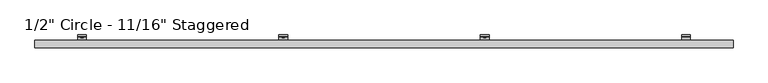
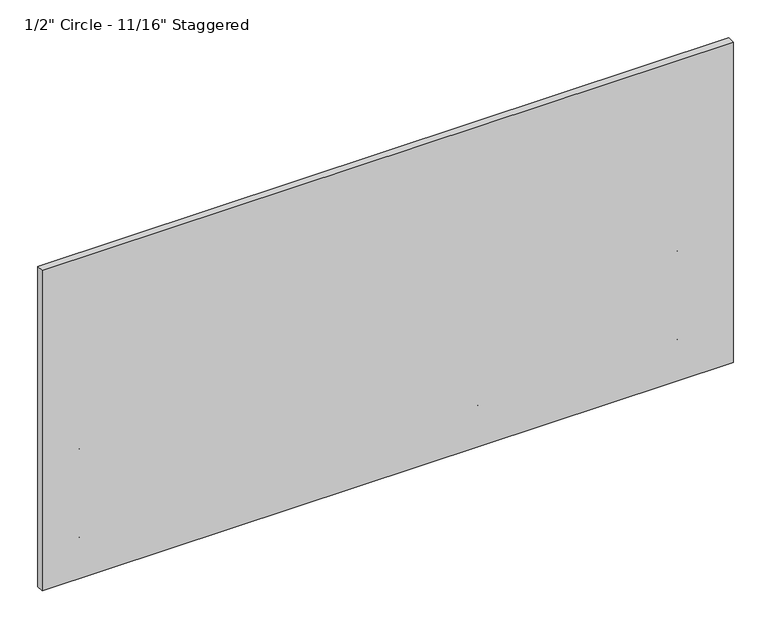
"""IFC4 building model written with IfcOpenShell, lengths in millimetres: plate geometry."""

from ifc_helpers import new_model, si_unit, point, frame, frame_2d, origin, place, context, project, spatial, polyline, circle_curve, trimmed, segment, composite_curve, outline, extrude, source, transform, mapped, element, save
from ifc_brep_helpers import plane_surface, cylinder_surface, revolved_surface, advanced_brep


def plate_956091e3(model_context):
    return source(origin(), model_context, "Body", "SolidModel", [
        advanced_brep(
        [(1285.875, -47.625, 561.2468868), (1285.875, -51.2819443, 553.5848544), (1285.875, -89.5163624, 526.8128266), (1285.875, -92.9330442, 530.2295084), (1285.875, -54.3526876, 557.2437649), (1285.875, -52.4002, 561.2469577), (1285.875, -52.4002, 595.439572), (1285.875, -47.625, 595.439572), (1323.975, -47.625, 561.2468868), (1323.975, -47.625, 595.439572), (1323.975, -52.4002, 595.439572), (1323.975, -52.4002, 561.2469577), (1323.975, -54.3526876, 557.2437649), (1323.975, -92.9330442, 530.2295084), (1323.975, -89.5163624, 526.8128266), (1323.975, -51.2819443, 553.5848544), (1311.6661889, -52.4002, 581.3943558), (1311.6661889, -52.4002, 575.0443558), (1295.4383287, -52.4002, 575.0443558), (1295.4383287, -52.4002, 581.3943558), (1311.6661889, -47.625, 575.0443558), (1311.6661889, -47.625, 581.3943558), (1295.4383287, -47.625, 581.3943558), (1295.4383287, -47.625, 575.0443558)],
        [
            (0, 1, circle_curve(frame((1285.875, -57.4802202, 561.2468868), z_axis=(-1.0, 0.0, 0.0), x_axis=(0.0, -1.0, 0.0)), 9.8552202)),
            (1, 2),
            (2, 3),
            (3, 4),
            (4, 5, circle_curve(frame((1285.875, -57.4803246, 561.2469577), z_axis=(1.0, 0.0, 0.0), x_axis=(0.0, -1.0, 0.0)), 5.0801246)),
            (5, 6),
            (6, 7),
            (7, 0),
            (8, 9),
            (9, 10),
            (10, 11),
            (11, 12, circle_curve(frame((1323.975, -57.4803246, 561.2469577), z_axis=(-1.0, 0.0, 0.0), x_axis=(0.0, -1.0, 0.0)), 5.0801246)),
            (12, 13),
            (13, 14),
            (14, 15),
            (15, 8, circle_curve(frame((1323.975, -57.4802202, 561.2468868), z_axis=(1.0, 0.0, 0.0), x_axis=(0.0, -1.0, 0.0)), 9.8552202)),
            (4, 12),
            (11, 5),
            (10, 6),
            (16, 17, circle_curve(frame((1311.6661889, -52.4002, 578.2193558), z_axis=(0.0, 1.0, 0.0), x_axis=(0.0, 0.0, -1.0)), 3.175)),
            (17, 18),
            (18, 19, circle_curve(frame((1295.4383287, -52.4002, 578.2193558), z_axis=(0.0, 1.0, 0.0), x_axis=(0.0, 0.0, -1.0)), 3.175)),
            (19, 16),
            (9, 7),
            (8, 0),
            (20, 21, circle_curve(frame((1311.6661889, -47.625, 578.2193558), z_axis=(0.0, -1.0, 0.0), x_axis=(0.0, 0.0, -1.0)), 3.175)),
            (21, 22),
            (22, 23, circle_curve(frame((1295.4383287, -47.625, 578.2193558), z_axis=(0.0, -1.0, 0.0), x_axis=(0.0, 0.0, -1.0)), 3.175)),
            (23, 20),
            (15, 1),
            (20, 17),
            (16, 21),
            (19, 22),
            (18, 23),
            (14, 2),
            (13, 3),
        ],
        [
            plane_surface(frame((1285.875, -67.3354404, 561.2468868), z_axis=(-1.0, 0.0, 0.0), x_axis=(0.0, 0.0, 1.0))),
            plane_surface(frame((1323.975, -67.3354404, 561.2468868), z_axis=(1.0, 0.0, 0.0), x_axis=(0.0, 0.0, -1.0))),
            revolved_surface(polyline([(1323.975, -62.5604492, 561.2469577), (1285.875, -62.5604492, 561.2469577)]), (1323.975, -57.4803246, 561.2469577), (1.0, 0.0, 0.0)),
            plane_surface(frame((1285.875, -52.4002, 561.2469577), z_axis=(0.0, -1.0, 0.0), x_axis=(1.0, 0.0, 0.0))),
            plane_surface(frame((1285.875, -52.4002, 595.439572), z_axis=(0.0, 0.0, 1.0), x_axis=(1.0, 0.0, 0.0))),
            plane_surface(frame((1285.875, -47.625, 595.439572), z_axis=(0.0, 1.0, 6.99569853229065e-12), x_axis=(1.0, 0.0, 0.0))),
            cylinder_surface(frame((1323.975, -57.4802202, 561.2468868), z_axis=(-1.0, 0.0, 0.0), x_axis=(0.0, -1.0, 0.0)), 9.8552202),
            revolved_surface(polyline([(1311.6661889, -52.4002, 575.0443558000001), (1311.6661889, -47.625, 575.0443558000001)]), (1311.6661889, -25.6669948, 578.2193558), (0.0, -1.0, 0.0)),
            plane_surface(frame((1311.6661889, -86.677982, 581.3943558), z_axis=(0.0, 0.0, -1.0), x_axis=(0.0, 1.0, 0.0))),
            revolved_surface(polyline([(1295.4383287, -52.4002, 575.0443558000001), (1295.4383287, -47.625, 575.0443558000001)]), (1295.4383287, -25.6669948, 578.2193558), (0.0, -1.0, 0.0)),
            plane_surface(frame((1295.4383287, -86.677982, 575.0443558), z_axis=(-2.7237733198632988e-11, 0.0, 1.0), x_axis=(0.0, 1.0, 0.0))),
            plane_surface(frame((1285.875, -51.2819443, 553.5848544), z_axis=(0.0, 0.5735764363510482, -0.8191520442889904), x_axis=(1.0, 0.0, 0.0))),
            plane_surface(frame((1285.875, -89.5163624, 526.8128266), z_axis=(0.0, -0.7071067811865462, -0.7071067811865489), x_axis=(1.0, 0.0, 0.0))),
            plane_surface(frame((1285.875, -92.9330442, 530.2295084), z_axis=(0.0, -0.5735764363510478, 0.8191520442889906), x_axis=(1.0, 0.0, 0.0))),
        ],
        [
            (0, [[1, 2, 3, 4, 5, 6, 7, 8]]),
            (1, [[9, 10, 11, 12, 13, 14, 15, 16]]),
            (2, [[-5, 17, -12, 18]]),
            (3, [[-6, -18, -11, 19], [20, 21, 22, 23]]),
            (4, [[-7, -19, -10, 24]]),
            (5, [[-8, -24, -9, 25], [26, 27, 28, 29]]),
            (6, [[-1, -25, -16, 30]]),
            (7, [[31, -20, 32, -26]]),
            (8, [[-32, -23, 33, -27]]),
            (9, [[-33, -22, 34, -28]]),
            (10, [[-31, -29, -34, -21]]),
            (11, [[-2, -30, -15, 35]]),
            (12, [[-3, -35, -14, 36]]),
            (13, [[-4, -36, -13, -17]]),
        ],
    ),
        extrude(outline(polyline([(578.3961989, 429.9570034), (574.0504864, 432.4660017), (574.0504864, 437.4839983), (578.3961989, 439.9929966), (582.7419114, 437.4839983), (582.7419114, 432.4660017), (578.3961989, 429.9570034)])), frame((0.0, -58.7607779, 0.0), z_axis=(0.0, 1.0, 0.0), x_axis=(0.0, 0.0, 1.0)), (0.0, 0.0, 1.0), 11.1357779),
        extrude(outline(composite_curve([segment(trimmed(circle_curve(frame_2d((578.4895059, 434.975)), 6.35), [point((578.4895059, 441.325))], [point((578.4895059, 428.625))], False, "CARTESIAN"), True, "CONTINUOUS"), segment(trimmed(circle_curve(frame_2d((578.4895059, 434.975)), 6.35), [point((578.4895059, 428.625))], [point((578.4895059, 441.325))], False, "CARTESIAN"), True, "CONTINUOUS")], self_intersect=False)), frame((0.0, -57.0817743, 0.0), z_axis=(0.0, 1.0, 0.0), x_axis=(0.0, 0.0, 1.0)), (0.0, 0.0, 1.0), 9.4567743),
        advanced_brep(
        [(415.925, -47.625, 561.2468868), (415.925, -51.2819443, 553.5848544), (415.925, -89.5163624, 526.8128266), (415.925, -92.9330442, 530.2295084), (415.925, -54.3526876, 557.2437649), (415.925, -52.4002, 561.2469577), (415.925, -52.4002, 595.439572), (415.925, -47.625, 595.439572), (454.025, -47.625, 561.2468868), (454.025, -47.625, 595.439572), (454.025, -52.4002, 595.439572), (454.025, -52.4002, 561.2469577), (454.025, -54.3526876, 557.2437649), (454.025, -92.9330442, 530.2295084), (454.025, -89.5163624, 526.8128266), (454.025, -51.2819443, 553.5848544), (441.7161889, -52.4002, 581.3943558), (441.7161889, -52.4002, 575.0443558), (425.4883287, -52.4002, 575.0443558), (425.4883287, -52.4002, 581.3943558), (441.7161889, -47.625, 575.0443558), (441.7161889, -47.625, 581.3943558), (425.4883287, -47.625, 581.3943558), (425.4883287, -47.625, 575.0443558)],
        [
            (0, 1, circle_curve(frame((415.925, -57.4802202, 561.2468868), z_axis=(-1.0, 0.0, 0.0), x_axis=(0.0, -1.0, 0.0)), 9.8552202)),
            (1, 2),
            (2, 3),
            (3, 4),
            (4, 5, circle_curve(frame((415.925, -57.4803246, 561.2469577), z_axis=(1.0, 0.0, 0.0), x_axis=(0.0, -1.0, 0.0)), 5.0801246)),
            (5, 6),
            (6, 7),
            (7, 0),
            (8, 9),
            (9, 10),
            (10, 11),
            (11, 12, circle_curve(frame((454.025, -57.4803246, 561.2469577), z_axis=(-1.0, 0.0, 0.0), x_axis=(0.0, -1.0, 0.0)), 5.0801246)),
            (12, 13),
            (13, 14),
            (14, 15),
            (15, 8, circle_curve(frame((454.025, -57.4802202, 561.2468868), z_axis=(1.0, 0.0, 0.0), x_axis=(0.0, -1.0, 0.0)), 9.8552202)),
            (4, 12),
            (11, 5),
            (10, 6),
            (16, 17, circle_curve(frame((441.7161889, -52.4002, 578.2193558), z_axis=(0.0, 1.0, 0.0), x_axis=(0.0, 0.0, -1.0)), 3.175)),
            (17, 18),
            (18, 19, circle_curve(frame((425.4883287, -52.4002, 578.2193558), z_axis=(0.0, 1.0, 0.0), x_axis=(0.0, 0.0, -1.0)), 3.175)),
            (19, 16),
            (9, 7),
            (8, 0),
            (20, 21, circle_curve(frame((441.7161889, -47.625, 578.2193558), z_axis=(0.0, -1.0, 0.0), x_axis=(0.0, 0.0, -1.0)), 3.175)),
            (21, 22),
            (22, 23, circle_curve(frame((425.4883287, -47.625, 578.2193558), z_axis=(0.0, -1.0, 0.0), x_axis=(0.0, 0.0, -1.0)), 3.175)),
            (23, 20),
            (15, 1),
            (20, 17),
            (16, 21),
            (19, 22),
            (18, 23),
            (14, 2),
            (13, 3),
        ],
        [
            plane_surface(frame((415.925, -67.3354404, 561.2468868), z_axis=(-1.0, 0.0, 0.0), x_axis=(0.0, 0.0, 1.0))),
            plane_surface(frame((454.025, -67.3354404, 561.2468868), z_axis=(1.0, 0.0, 0.0), x_axis=(0.0, 0.0, -1.0))),
            revolved_surface(polyline([(454.025, -62.5604492, 561.2469577), (415.925, -62.5604492, 561.2469577)]), (454.025, -57.4803246, 561.2469577), (1.0, 0.0, 0.0)),
            plane_surface(frame((415.925, -52.4002, 561.2469577), z_axis=(0.0, -1.0, 0.0), x_axis=(1.0, 0.0, 0.0))),
            plane_surface(frame((415.925, -52.4002, 595.439572), z_axis=(0.0, 0.0, 1.0), x_axis=(1.0, 0.0, 0.0))),
            plane_surface(frame((415.925, -47.625, 595.439572), z_axis=(0.0, 1.0, 6.99569853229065e-12), x_axis=(1.0, 0.0, 0.0))),
            cylinder_surface(frame((454.025, -57.4802202, 561.2468868), z_axis=(-1.0, 0.0, 0.0), x_axis=(0.0, -1.0, 0.0)), 9.8552202),
            revolved_surface(polyline([(441.7161889, -52.4002, 575.0443558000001), (441.7161889, -47.625, 575.0443558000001)]), (441.7161889, -25.6669948, 578.2193558), (0.0, -1.0, 0.0)),
            plane_surface(frame((441.7161889, -86.677982, 581.3943558), z_axis=(0.0, 0.0, -1.0), x_axis=(0.0, 1.0, 0.0))),
            revolved_surface(polyline([(425.4883287, -52.4002, 575.0443558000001), (425.4883287, -47.625, 575.0443558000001)]), (425.4883287, -25.6669948, 578.2193558), (0.0, -1.0, 0.0)),
            plane_surface(frame((425.4883287, -86.677982, 575.0443558), z_axis=(-2.7237733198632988e-11, 0.0, 1.0), x_axis=(0.0, 1.0, 0.0))),
            plane_surface(frame((415.925, -51.2819443, 553.5848544), z_axis=(0.0, 0.5735764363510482, -0.8191520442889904), x_axis=(1.0, 0.0, 0.0))),
            plane_surface(frame((415.925, -89.5163624, 526.8128266), z_axis=(0.0, -0.7071067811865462, -0.7071067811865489), x_axis=(1.0, 0.0, 0.0))),
            plane_surface(frame((415.925, -92.9330442, 530.2295084), z_axis=(0.0, -0.5735764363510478, 0.8191520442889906), x_axis=(1.0, 0.0, 0.0))),
        ],
        [
            (0, [[1, 2, 3, 4, 5, 6, 7, 8]]),
            (1, [[9, 10, 11, 12, 13, 14, 15, 16]]),
            (2, [[-5, 17, -12, 18]]),
            (3, [[-6, -18, -11, 19], [20, 21, 22, 23]]),
            (4, [[-7, -19, -10, 24]]),
            (5, [[-8, -24, -9, 25], [26, 27, 28, 29]]),
            (6, [[-1, -25, -16, 30]]),
            (7, [[31, -20, 32, -26]]),
            (8, [[-32, -23, 33, -27]]),
            (9, [[-33, -22, 34, -28]]),
            (10, [[-31, -29, -34, -21]]),
            (11, [[-2, -30, -15, 35]]),
            (12, [[-3, -35, -14, 36]]),
            (13, [[-4, -36, -13, -17]]),
        ],
    ),
        extrude(outline(polyline([(578.3961989, -439.9929966), (574.0504864, -437.4839983), (574.0504864, -432.4660017), (578.3961989, -429.9570034), (582.7419114, -432.4660017), (582.7419114, -437.4839983), (578.3961989, -439.9929966)])), frame((0.0, -58.7607779, 0.0), z_axis=(0.0, 1.0, 0.0), x_axis=(0.0, 0.0, 1.0)), (0.0, 0.0, 1.0), 11.1357779),
        extrude(outline(composite_curve([segment(trimmed(circle_curve(frame_2d((578.4895059, -434.975)), 6.35), [point((578.4895059, -428.625))], [point((578.4895059, -441.325))], False, "CARTESIAN"), True, "CONTINUOUS"), segment(trimmed(circle_curve(frame_2d((578.4895059, -434.975)), 6.35), [point((578.4895059, -441.325))], [point((578.4895059, -428.625))], False, "CARTESIAN"), True, "CONTINUOUS")], self_intersect=False)), frame((0.0, -57.0817743, 0.0), z_axis=(0.0, 1.0, 0.0), x_axis=(0.0, 0.0, 1.0)), (0.0, 0.0, 1.0), 9.4567743),
        advanced_brep(
        [(-454.025, -47.625, 561.2468868), (-454.025, -51.2819443, 553.5848544), (-454.025, -89.5163624, 526.8128266), (-454.025, -92.9330442, 530.2295084), (-454.025, -54.3526876, 557.2437649), (-454.025, -52.4002, 561.2469577), (-454.025, -52.4002, 595.439572), (-454.025, -47.625, 595.439572), (-415.925, -47.625, 561.2468868), (-415.925, -47.625, 595.439572), (-415.925, -52.4002, 595.439572), (-415.925, -52.4002, 561.2469577), (-415.925, -54.3526876, 557.2437649), (-415.925, -92.9330442, 530.2295084), (-415.925, -89.5163624, 526.8128266), (-415.925, -51.2819443, 553.5848544), (-428.2338111, -52.4002, 581.3943558), (-428.2338111, -52.4002, 575.0443558), (-444.4616713, -52.4002, 575.0443558), (-444.4616713, -52.4002, 581.3943558), (-428.2338111, -47.625, 575.0443558), (-428.2338111, -47.625, 581.3943558), (-444.4616713, -47.625, 581.3943558), (-444.4616713, -47.625, 575.0443558)],
        [
            (0, 1, circle_curve(frame((-454.025, -57.4802202, 561.2468868), z_axis=(-1.0, 0.0, 0.0), x_axis=(0.0, -1.0, 0.0)), 9.8552202)),
            (1, 2),
            (2, 3),
            (3, 4),
            (4, 5, circle_curve(frame((-454.025, -57.4803246, 561.2469577), z_axis=(1.0, 0.0, 0.0), x_axis=(0.0, -1.0, 0.0)), 5.0801246)),
            (5, 6),
            (6, 7),
            (7, 0),
            (8, 9),
            (9, 10),
            (10, 11),
            (11, 12, circle_curve(frame((-415.925, -57.4803246, 561.2469577), z_axis=(-1.0, 0.0, 0.0), x_axis=(0.0, -1.0, 0.0)), 5.0801246)),
            (12, 13),
            (13, 14),
            (14, 15),
            (15, 8, circle_curve(frame((-415.925, -57.4802202, 561.2468868), z_axis=(1.0, 0.0, 0.0), x_axis=(0.0, -1.0, 0.0)), 9.8552202)),
            (4, 12),
            (11, 5),
            (10, 6),
            (16, 17, circle_curve(frame((-428.2338111, -52.4002, 578.2193558), z_axis=(0.0, 1.0, 0.0), x_axis=(0.0, 0.0, -1.0)), 3.175)),
            (17, 18),
            (18, 19, circle_curve(frame((-444.4616713, -52.4002, 578.2193558), z_axis=(0.0, 1.0, 0.0), x_axis=(0.0, 0.0, -1.0)), 3.175)),
            (19, 16),
            (9, 7),
            (8, 0),
            (20, 21, circle_curve(frame((-428.2338111, -47.625, 578.2193558), z_axis=(0.0, -1.0, 0.0), x_axis=(0.0, 0.0, -1.0)), 3.175)),
            (21, 22),
            (22, 23, circle_curve(frame((-444.4616713, -47.625, 578.2193558), z_axis=(0.0, -1.0, 0.0), x_axis=(0.0, 0.0, -1.0)), 3.175)),
            (23, 20),
            (15, 1),
            (20, 17),
            (16, 21),
            (19, 22),
            (18, 23),
            (14, 2),
            (13, 3),
        ],
        [
            plane_surface(frame((-454.025, -67.3354404, 561.2468868), z_axis=(-1.0, 0.0, 0.0), x_axis=(0.0, 0.0, 1.0))),
            plane_surface(frame((-415.925, -67.3354404, 561.2468868), z_axis=(1.0, 0.0, 0.0), x_axis=(0.0, 0.0, -1.0))),
            revolved_surface(polyline([(-415.925, -62.5604492, 561.2469577), (-454.025, -62.5604492, 561.2469577)]), (-415.925, -57.4803246, 561.2469577), (1.0, 0.0, 0.0)),
            plane_surface(frame((-454.025, -52.4002, 561.2469577), z_axis=(0.0, -1.0, 0.0), x_axis=(1.0, 0.0, 0.0))),
            plane_surface(frame((-454.025, -52.4002, 595.439572), z_axis=(0.0, 0.0, 1.0), x_axis=(1.0, 0.0, 0.0))),
            plane_surface(frame((-454.025, -47.625, 595.439572), z_axis=(0.0, 1.0, 6.99569853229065e-12), x_axis=(1.0, 0.0, 0.0))),
            cylinder_surface(frame((-415.925, -57.4802202, 561.2468868), z_axis=(-1.0, 0.0, 0.0), x_axis=(0.0, -1.0, 0.0)), 9.8552202),
            revolved_surface(polyline([(-428.2338111, -52.4002, 575.0443558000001), (-428.2338111, -47.625, 575.0443558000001)]), (-428.2338111, -25.6669948, 578.2193558), (0.0, -1.0, 0.0)),
            plane_surface(frame((-428.2338111, -86.677982, 581.3943558), z_axis=(0.0, 0.0, -1.0), x_axis=(0.0, 1.0, 0.0))),
            revolved_surface(polyline([(-444.4616713, -52.4002, 575.0443558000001), (-444.4616713, -47.625, 575.0443558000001)]), (-444.4616713, -25.6669948, 578.2193558), (0.0, -1.0, 0.0)),
            plane_surface(frame((-444.4616713, -86.677982, 575.0443558), z_axis=(-2.7237733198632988e-11, 0.0, 1.0), x_axis=(0.0, 1.0, 0.0))),
            plane_surface(frame((-454.025, -51.2819443, 553.5848544), z_axis=(0.0, 0.5735764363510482, -0.8191520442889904), x_axis=(1.0, 0.0, 0.0))),
            plane_surface(frame((-454.025, -89.5163624, 526.8128266), z_axis=(0.0, -0.7071067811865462, -0.7071067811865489), x_axis=(1.0, 0.0, 0.0))),
            plane_surface(frame((-454.025, -92.9330442, 530.2295084), z_axis=(0.0, -0.5735764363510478, 0.8191520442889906), x_axis=(1.0, 0.0, 0.0))),
        ],
        [
            (0, [[1, 2, 3, 4, 5, 6, 7, 8]]),
            (1, [[9, 10, 11, 12, 13, 14, 15, 16]]),
            (2, [[-5, 17, -12, 18]]),
            (3, [[-6, -18, -11, 19], [20, 21, 22, 23]]),
            (4, [[-7, -19, -10, 24]]),
            (5, [[-8, -24, -9, 25], [26, 27, 28, 29]]),
            (6, [[-1, -25, -16, 30]]),
            (7, [[31, -20, 32, -26]]),
            (8, [[-32, -23, 33, -27]]),
            (9, [[-33, -22, 34, -28]]),
            (10, [[-31, -29, -34, -21]]),
            (11, [[-2, -30, -15, 35]]),
            (12, [[-3, -35, -14, 36]]),
            (13, [[-4, -36, -13, -17]]),
        ],
    ),
        extrude(outline(polyline([(578.3961989, -1309.9429966), (574.0504864, -1307.4339983), (574.0504864, -1302.4160017), (578.3961989, -1299.9070034), (582.7419114, -1302.4160017), (582.7419114, -1307.4339983), (578.3961989, -1309.9429966)])), frame((0.0, -58.7607779, 0.0), z_axis=(0.0, 1.0, 0.0), x_axis=(0.0, 0.0, 1.0)), (0.0, 0.0, 1.0), 11.1357779),
        extrude(outline(composite_curve([segment(trimmed(circle_curve(frame_2d((578.4895059, -1304.925)), 6.35), [point((578.4895059, -1298.575))], [point((578.4895059, -1311.275))], False, "CARTESIAN"), True, "CONTINUOUS"), segment(trimmed(circle_curve(frame_2d((578.4895059, -1304.925)), 6.35), [point((578.4895059, -1311.275))], [point((578.4895059, -1298.575))], False, "CARTESIAN"), True, "CONTINUOUS")], self_intersect=False)), frame((0.0, -57.0817743, 0.0), z_axis=(0.0, 1.0, 0.0), x_axis=(0.0, 0.0, 1.0)), (0.0, 0.0, 1.0), 9.4567743),
        advanced_brep(
        [(-1323.975, -47.625, 561.2468868), (-1323.975, -51.2819443, 553.5848544), (-1323.975, -89.5163624, 526.8128266), (-1323.975, -92.9330442, 530.2295084), (-1323.975, -54.3526876, 557.2437649), (-1323.975, -52.4002, 561.2469577), (-1323.975, -52.4002, 595.439572), (-1323.975, -47.625, 595.439572), (-1285.875, -47.625, 561.2468868), (-1285.875, -47.625, 595.439572), (-1285.875, -52.4002, 595.439572), (-1285.875, -52.4002, 561.2469577), (-1285.875, -54.3526876, 557.2437649), (-1285.875, -92.9330442, 530.2295084), (-1285.875, -89.5163624, 526.8128266), (-1285.875, -51.2819443, 553.5848544), (-1298.1838111, -52.4002, 581.3943558), (-1298.1838111, -52.4002, 575.0443558), (-1314.4116713, -52.4002, 575.0443558), (-1314.4116713, -52.4002, 581.3943558), (-1298.1838111, -47.625, 575.0443558), (-1298.1838111, -47.625, 581.3943558), (-1314.4116713, -47.625, 581.3943558), (-1314.4116713, -47.625, 575.0443558)],
        [
            (0, 1, circle_curve(frame((-1323.975, -57.4802202, 561.2468868), z_axis=(-1.0, 0.0, 0.0), x_axis=(0.0, -1.0, 0.0)), 9.8552202)),
            (1, 2),
            (2, 3),
            (3, 4),
            (4, 5, circle_curve(frame((-1323.975, -57.4803246, 561.2469577), z_axis=(1.0, 0.0, 0.0), x_axis=(0.0, -1.0, 0.0)), 5.0801246)),
            (5, 6),
            (6, 7),
            (7, 0),
            (8, 9),
            (9, 10),
            (10, 11),
            (11, 12, circle_curve(frame((-1285.875, -57.4803246, 561.2469577), z_axis=(-1.0, 0.0, 0.0), x_axis=(0.0, -1.0, 0.0)), 5.0801246)),
            (12, 13),
            (13, 14),
            (14, 15),
            (15, 8, circle_curve(frame((-1285.875, -57.4802202, 561.2468868), z_axis=(1.0, 0.0, 0.0), x_axis=(0.0, -1.0, 0.0)), 9.8552202)),
            (4, 12),
            (11, 5),
            (10, 6),
            (16, 17, circle_curve(frame((-1298.1838111, -52.4002, 578.2193558), z_axis=(0.0, 1.0, 0.0), x_axis=(0.0, 0.0, -1.0)), 3.175)),
            (17, 18),
            (18, 19, circle_curve(frame((-1314.4116713, -52.4002, 578.2193558), z_axis=(0.0, 1.0, 0.0), x_axis=(0.0, 0.0, -1.0)), 3.175)),
            (19, 16),
            (9, 7),
            (8, 0),
            (20, 21, circle_curve(frame((-1298.1838111, -47.625, 578.2193558), z_axis=(0.0, -1.0, 0.0), x_axis=(0.0, 0.0, -1.0)), 3.175)),
            (21, 22),
            (22, 23, circle_curve(frame((-1314.4116713, -47.625, 578.2193558), z_axis=(0.0, -1.0, 0.0), x_axis=(0.0, 0.0, -1.0)), 3.175)),
            (23, 20),
            (15, 1),
            (20, 17),
            (16, 21),
            (19, 22),
            (18, 23),
            (14, 2),
            (13, 3),
        ],
        [
            plane_surface(frame((-1323.975, -67.3354404, 561.2468868), z_axis=(-1.0, 0.0, 0.0), x_axis=(0.0, 0.0, 1.0))),
            plane_surface(frame((-1285.875, -67.3354404, 561.2468868), z_axis=(1.0, 0.0, 0.0), x_axis=(0.0, 0.0, -1.0))),
            revolved_surface(polyline([(-1285.875, -62.5604492, 561.2469577), (-1323.975, -62.5604492, 561.2469577)]), (-1285.875, -57.4803246, 561.2469577), (1.0, 0.0, 0.0)),
            plane_surface(frame((-1323.975, -52.4002, 561.2469577), z_axis=(0.0, -1.0, 0.0), x_axis=(1.0, 0.0, 0.0))),
            plane_surface(frame((-1323.975, -52.4002, 595.439572), z_axis=(0.0, 0.0, 1.0), x_axis=(1.0, 0.0, 0.0))),
            plane_surface(frame((-1323.975, -47.625, 595.439572), z_axis=(0.0, 1.0, 6.99569853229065e-12), x_axis=(1.0, 0.0, 0.0))),
            cylinder_surface(frame((-1285.875, -57.4802202, 561.2468868), z_axis=(-1.0, 0.0, 0.0), x_axis=(0.0, -1.0, 0.0)), 9.8552202),
            revolved_surface(polyline([(-1298.1838111, -52.4002, 575.0443558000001), (-1298.1838111, -47.625, 575.0443558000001)]), (-1298.1838111, -25.6669948, 578.2193558), (0.0, -1.0, 0.0)),
            plane_surface(frame((-1298.1838111, -86.677982, 581.3943558), z_axis=(0.0, 0.0, -1.0), x_axis=(0.0, 1.0, 0.0))),
            revolved_surface(polyline([(-1314.4116713, -52.4002, 575.0443558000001), (-1314.4116713, -47.625, 575.0443558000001)]), (-1314.4116713, -25.6669948, 578.2193558), (0.0, -1.0, 0.0)),
            plane_surface(frame((-1314.4116713, -86.677982, 575.0443558), z_axis=(-2.7237733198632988e-11, 0.0, 1.0), x_axis=(0.0, 1.0, 0.0))),
            plane_surface(frame((-1323.975, -51.2819443, 553.5848544), z_axis=(0.0, 0.5735764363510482, -0.8191520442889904), x_axis=(1.0, 0.0, 0.0))),
            plane_surface(frame((-1323.975, -89.5163624, 526.8128266), z_axis=(0.0, -0.7071067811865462, -0.7071067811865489), x_axis=(1.0, 0.0, 0.0))),
            plane_surface(frame((-1323.975, -92.9330442, 530.2295084), z_axis=(0.0, -0.5735764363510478, 0.8191520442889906), x_axis=(1.0, 0.0, 0.0))),
        ],
        [
            (0, [[1, 2, 3, 4, 5, 6, 7, 8]]),
            (1, [[9, 10, 11, 12, 13, 14, 15, 16]]),
            (2, [[-5, 17, -12, 18]]),
            (3, [[-6, -18, -11, 19], [20, 21, 22, 23]]),
            (4, [[-7, -19, -10, 24]]),
            (5, [[-8, -24, -9, 25], [26, 27, 28, 29]]),
            (6, [[-1, -25, -16, 30]]),
            (7, [[31, -20, 32, -26]]),
            (8, [[-32, -23, 33, -27]]),
            (9, [[-33, -22, 34, -28]]),
            (10, [[-31, -29, -34, -21]]),
            (11, [[-2, -30, -15, 35]]),
            (12, [[-3, -35, -14, 36]]),
            (13, [[-4, -36, -13, -17]]),
        ],
    ),
        extrude(outline(polyline([(169.8795323, 1299.9070034), (165.5338197, 1302.4160017), (165.5338197, 1307.4339983), (169.8795323, 1309.9429966), (174.2252448, 1307.4339983), (174.2252448, 1302.4160017), (169.8795323, 1299.9070034)])), frame((0.0, -58.7607779, 0.0), z_axis=(0.0, 1.0, 0.0), x_axis=(0.0, 0.0, 1.0)), (0.0, 0.0, 1.0), 11.1357779),
        extrude(outline(composite_curve([segment(trimmed(circle_curve(frame_2d((169.9728392, 1304.925)), 6.35), [point((169.9728392, 1311.275))], [point((169.9728392, 1298.575))], False, "CARTESIAN"), True, "CONTINUOUS"), segment(trimmed(circle_curve(frame_2d((169.9728392, 1304.925)), 6.35), [point((169.9728392, 1298.575))], [point((169.9728392, 1311.275))], False, "CARTESIAN"), True, "CONTINUOUS")], self_intersect=False)), frame((0.0, -57.0817743, 0.0), z_axis=(0.0, 1.0, 0.0), x_axis=(0.0, 0.0, 1.0)), (0.0, 0.0, 1.0), 9.4567743),
        advanced_brep(
        [(1285.875, -47.625, 152.7302202), (1285.875, -51.2819443, 145.0681877), (1285.875, -89.5163624, 118.29616), (1285.875, -92.9330442, 121.7128418), (1285.875, -54.3526876, 148.7270983), (1285.875, -52.4002, 152.7302911), (1285.875, -52.4002, 186.9229053), (1285.875, -47.625, 186.9229053), (1323.975, -47.625, 152.7302202), (1323.975, -47.625, 186.9229053), (1323.975, -52.4002, 186.9229053), (1323.975, -52.4002, 152.7302911), (1323.975, -54.3526876, 148.7270983), (1323.975, -92.9330442, 121.7128418), (1323.975, -89.5163624, 118.29616), (1323.975, -51.2819443, 145.0681877), (1311.6661889, -52.4002, 172.8776891), (1311.6661889, -52.4002, 166.5276891), (1295.4383287, -52.4002, 166.5276891), (1295.4383287, -52.4002, 172.8776891), (1311.6661889, -47.625, 166.5276891), (1311.6661889, -47.625, 172.8776891), (1295.4383287, -47.625, 172.8776891), (1295.4383287, -47.625, 166.5276891)],
        [
            (0, 1, circle_curve(frame((1285.875, -57.4802202, 152.7302202), z_axis=(-1.0, 0.0, 0.0), x_axis=(0.0, -1.0, 0.0)), 9.8552202)),
            (1, 2),
            (2, 3),
            (3, 4),
            (4, 5, circle_curve(frame((1285.875, -57.4803246, 152.7302911), z_axis=(1.0, 0.0, 0.0), x_axis=(0.0, -1.0, 0.0)), 5.0801246)),
            (5, 6),
            (6, 7),
            (7, 0),
            (8, 9),
            (9, 10),
            (10, 11),
            (11, 12, circle_curve(frame((1323.975, -57.4803246, 152.7302911), z_axis=(-1.0, 0.0, 0.0), x_axis=(0.0, -1.0, 0.0)), 5.0801246)),
            (12, 13),
            (13, 14),
            (14, 15),
            (15, 8, circle_curve(frame((1323.975, -57.4802202, 152.7302202), z_axis=(1.0, 0.0, 0.0), x_axis=(0.0, -1.0, 0.0)), 9.8552202)),
            (4, 12),
            (11, 5),
            (10, 6),
            (16, 17, circle_curve(frame((1311.6661889, -52.4002, 169.7026891), z_axis=(0.0, 1.0, 0.0), x_axis=(0.0, 0.0, -1.0)), 3.175)),
            (17, 18),
            (18, 19, circle_curve(frame((1295.4383287, -52.4002, 169.7026891), z_axis=(0.0, 1.0, 0.0), x_axis=(0.0, 0.0, -1.0)), 3.175)),
            (19, 16),
            (9, 7),
            (8, 0),
            (20, 21, circle_curve(frame((1311.6661889, -47.625, 169.7026891), z_axis=(0.0, -1.0, 0.0), x_axis=(0.0, 0.0, -1.0)), 3.175)),
            (21, 22),
            (22, 23, circle_curve(frame((1295.4383287, -47.625, 169.7026891), z_axis=(0.0, -1.0, 0.0), x_axis=(0.0, 0.0, -1.0)), 3.175)),
            (23, 20),
            (15, 1),
            (20, 17),
            (16, 21),
            (19, 22),
            (18, 23),
            (14, 2),
            (13, 3),
        ],
        [
            plane_surface(frame((1285.875, -67.3354404, 152.7302202), z_axis=(-1.0, 0.0, 0.0), x_axis=(0.0, 0.0, 1.0))),
            plane_surface(frame((1323.975, -67.3354404, 152.7302202), z_axis=(1.0, 0.0, 0.0), x_axis=(0.0, 0.0, -1.0))),
            revolved_surface(polyline([(1323.975, -62.5604492, 152.7302911), (1285.875, -62.5604492, 152.7302911)]), (1323.975, -57.4803246, 152.7302911), (1.0, 0.0, 0.0)),
            plane_surface(frame((1285.875, -52.4002, 152.7302911), z_axis=(0.0, -1.0, 0.0), x_axis=(1.0, 0.0, 0.0))),
            plane_surface(frame((1285.875, -52.4002, 186.9229053), z_axis=(0.0, 0.0, 1.0), x_axis=(1.0, 0.0, 0.0))),
            plane_surface(frame((1285.875, -47.625, 186.9229053), z_axis=(0.0, 1.0, 6.99569853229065e-12), x_axis=(1.0, 0.0, 0.0))),
            cylinder_surface(frame((1323.975, -57.4802202, 152.7302202), z_axis=(-1.0, 0.0, 0.0), x_axis=(0.0, -1.0, 0.0)), 9.8552202),
            revolved_surface(polyline([(1311.6661889, -52.4002, 166.52768909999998), (1311.6661889, -47.625, 166.52768909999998)]), (1311.6661889, -25.6669948, 169.7026891), (0.0, -1.0, 0.0)),
            plane_surface(frame((1311.6661889, -86.677982, 172.8776891), z_axis=(0.0, 0.0, -1.0), x_axis=(0.0, 1.0, 0.0))),
            revolved_surface(polyline([(1295.4383287, -52.4002, 166.52768909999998), (1295.4383287, -47.625, 166.52768909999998)]), (1295.4383287, -25.6669948, 169.7026891), (0.0, -1.0, 0.0)),
            plane_surface(frame((1295.4383287, -86.677982, 166.5276891), z_axis=(-2.723774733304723e-11, 0.0, 1.0), x_axis=(0.0, 1.0, 0.0))),
            plane_surface(frame((1285.875, -51.2819443, 145.0681877), z_axis=(0.0, 0.5735764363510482, -0.8191520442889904), x_axis=(1.0, 0.0, 0.0))),
            plane_surface(frame((1285.875, -89.5163624, 118.29616), z_axis=(0.0, -0.7071067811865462, -0.7071067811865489), x_axis=(1.0, 0.0, 0.0))),
            plane_surface(frame((1285.875, -92.9330442, 121.7128418), z_axis=(0.0, -0.5735764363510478, 0.8191520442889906), x_axis=(1.0, 0.0, 0.0))),
        ],
        [
            (0, [[1, 2, 3, 4, 5, 6, 7, 8]]),
            (1, [[9, 10, 11, 12, 13, 14, 15, 16]]),
            (2, [[-5, 17, -12, 18]]),
            (3, [[-6, -18, -11, 19], [20, 21, 22, 23]]),
            (4, [[-7, -19, -10, 24]]),
            (5, [[-8, -24, -9, 25], [26, 27, 28, 29]]),
            (6, [[-1, -25, -16, 30]]),
            (7, [[31, -20, 32, -26]]),
            (8, [[-32, -23, 33, -27]]),
            (9, [[-33, -22, 34, -28]]),
            (10, [[-31, -29, -34, -21]]),
            (11, [[-2, -30, -15, 35]]),
            (12, [[-3, -35, -14, 36]]),
            (13, [[-4, -36, -13, -17]]),
        ],
    ),
        extrude(outline(polyline([(169.8795323, 429.9570034), (165.5338197, 432.4660017), (165.5338197, 437.4839983), (169.8795323, 439.9929966), (174.2252448, 437.4839983), (174.2252448, 432.4660017), (169.8795323, 429.9570034)])), frame((0.0, -58.7607779, 0.0), z_axis=(0.0, 1.0, 0.0), x_axis=(0.0, 0.0, 1.0)), (0.0, 0.0, 1.0), 11.1357779),
        extrude(outline(composite_curve([segment(trimmed(circle_curve(frame_2d((169.9728392, 434.975)), 6.35), [point((169.9728392, 441.325))], [point((169.9728392, 428.625))], False, "CARTESIAN"), True, "CONTINUOUS"), segment(trimmed(circle_curve(frame_2d((169.9728392, 434.975)), 6.35), [point((169.9728392, 428.625))], [point((169.9728392, 441.325))], False, "CARTESIAN"), True, "CONTINUOUS")], self_intersect=False)), frame((0.0, -57.0817743, 0.0), z_axis=(0.0, 1.0, 0.0), x_axis=(0.0, 0.0, 1.0)), (0.0, 0.0, 1.0), 9.4567743),
        advanced_brep(
        [(415.925, -47.625, 152.7302202), (415.925, -51.2819443, 145.0681877), (415.925, -89.5163624, 118.29616), (415.925, -92.9330442, 121.7128418), (415.925, -54.3526876, 148.7270983), (415.925, -52.4002, 152.7302911), (415.925, -52.4002, 186.9229053), (415.925, -47.625, 186.9229053), (454.025, -47.625, 152.7302202), (454.025, -47.625, 186.9229053), (454.025, -52.4002, 186.9229053), (454.025, -52.4002, 152.7302911), (454.025, -54.3526876, 148.7270983), (454.025, -92.9330442, 121.7128418), (454.025, -89.5163624, 118.29616), (454.025, -51.2819443, 145.0681877), (441.7161889, -52.4002, 172.8776891), (441.7161889, -52.4002, 166.5276891), (425.4883287, -52.4002, 166.5276891), (425.4883287, -52.4002, 172.8776891), (441.7161889, -47.625, 166.5276891), (441.7161889, -47.625, 172.8776891), (425.4883287, -47.625, 172.8776891), (425.4883287, -47.625, 166.5276891)],
        [
            (0, 1, circle_curve(frame((415.925, -57.4802202, 152.7302202), z_axis=(-1.0, 0.0, 0.0), x_axis=(0.0, -1.0, 0.0)), 9.8552202)),
            (1, 2),
            (2, 3),
            (3, 4),
            (4, 5, circle_curve(frame((415.925, -57.4803246, 152.7302911), z_axis=(1.0, 0.0, 0.0), x_axis=(0.0, -1.0, 0.0)), 5.0801246)),
            (5, 6),
            (6, 7),
            (7, 0),
            (8, 9),
            (9, 10),
            (10, 11),
            (11, 12, circle_curve(frame((454.025, -57.4803246, 152.7302911), z_axis=(-1.0, 0.0, 0.0), x_axis=(0.0, -1.0, 0.0)), 5.0801246)),
            (12, 13),
            (13, 14),
            (14, 15),
            (15, 8, circle_curve(frame((454.025, -57.4802202, 152.7302202), z_axis=(1.0, 0.0, 0.0), x_axis=(0.0, -1.0, 0.0)), 9.8552202)),
            (4, 12),
            (11, 5),
            (10, 6),
            (16, 17, circle_curve(frame((441.7161889, -52.4002, 169.7026891), z_axis=(0.0, 1.0, 0.0), x_axis=(0.0, 0.0, -1.0)), 3.175)),
            (17, 18),
            (18, 19, circle_curve(frame((425.4883287, -52.4002, 169.7026891), z_axis=(0.0, 1.0, 0.0), x_axis=(0.0, 0.0, -1.0)), 3.175)),
            (19, 16),
            (9, 7),
            (8, 0),
            (20, 21, circle_curve(frame((441.7161889, -47.625, 169.7026891), z_axis=(0.0, -1.0, 0.0), x_axis=(0.0, 0.0, -1.0)), 3.175)),
            (21, 22),
            (22, 23, circle_curve(frame((425.4883287, -47.625, 169.7026891), z_axis=(0.0, -1.0, 0.0), x_axis=(0.0, 0.0, -1.0)), 3.175)),
            (23, 20),
            (15, 1),
            (20, 17),
            (16, 21),
            (19, 22),
            (18, 23),
            (14, 2),
            (13, 3),
        ],
        [
            plane_surface(frame((415.925, -67.3354404, 152.7302202), z_axis=(-1.0, 0.0, 0.0), x_axis=(0.0, 0.0, 1.0))),
            plane_surface(frame((454.025, -67.3354404, 152.7302202), z_axis=(1.0, 0.0, 0.0), x_axis=(0.0, 0.0, -1.0))),
            revolved_surface(polyline([(454.025, -62.5604492, 152.7302911), (415.925, -62.5604492, 152.7302911)]), (454.025, -57.4803246, 152.7302911), (1.0, 0.0, 0.0)),
            plane_surface(frame((415.925, -52.4002, 152.7302911), z_axis=(0.0, -1.0, 0.0), x_axis=(1.0, 0.0, 0.0))),
            plane_surface(frame((415.925, -52.4002, 186.9229053), z_axis=(0.0, 0.0, 1.0), x_axis=(1.0, 0.0, 0.0))),
            plane_surface(frame((415.925, -47.625, 186.9229053), z_axis=(0.0, 1.0, 6.99569853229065e-12), x_axis=(1.0, 0.0, 0.0))),
            cylinder_surface(frame((454.025, -57.4802202, 152.7302202), z_axis=(-1.0, 0.0, 0.0), x_axis=(0.0, -1.0, 0.0)), 9.8552202),
            revolved_surface(polyline([(441.7161889, -52.4002, 166.52768909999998), (441.7161889, -47.625, 166.52768909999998)]), (441.7161889, -25.6669948, 169.7026891), (0.0, -1.0, 0.0)),
            plane_surface(frame((441.7161889, -86.677982, 172.8776891), z_axis=(0.0, 0.0, -1.0), x_axis=(0.0, 1.0, 0.0))),
            revolved_surface(polyline([(425.4883287, -52.4002, 166.52768909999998), (425.4883287, -47.625, 166.52768909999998)]), (425.4883287, -25.6669948, 169.7026891), (0.0, -1.0, 0.0)),
            plane_surface(frame((425.4883287, -86.677982, 166.5276891), z_axis=(-2.723774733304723e-11, 0.0, 1.0), x_axis=(0.0, 1.0, 0.0))),
            plane_surface(frame((415.925, -51.2819443, 145.0681877), z_axis=(0.0, 0.5735764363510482, -0.8191520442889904), x_axis=(1.0, 0.0, 0.0))),
            plane_surface(frame((415.925, -89.5163624, 118.29616), z_axis=(0.0, -0.7071067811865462, -0.7071067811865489), x_axis=(1.0, 0.0, 0.0))),
            plane_surface(frame((415.925, -92.9330442, 121.7128418), z_axis=(0.0, -0.5735764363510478, 0.8191520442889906), x_axis=(1.0, 0.0, 0.0))),
        ],
        [
            (0, [[1, 2, 3, 4, 5, 6, 7, 8]]),
            (1, [[9, 10, 11, 12, 13, 14, 15, 16]]),
            (2, [[-5, 17, -12, 18]]),
            (3, [[-6, -18, -11, 19], [20, 21, 22, 23]]),
            (4, [[-7, -19, -10, 24]]),
            (5, [[-8, -24, -9, 25], [26, 27, 28, 29]]),
            (6, [[-1, -25, -16, 30]]),
            (7, [[31, -20, 32, -26]]),
            (8, [[-32, -23, 33, -27]]),
            (9, [[-33, -22, 34, -28]]),
            (10, [[-31, -29, -34, -21]]),
            (11, [[-2, -30, -15, 35]]),
            (12, [[-3, -35, -14, 36]]),
            (13, [[-4, -36, -13, -17]]),
        ],
    ),
        extrude(outline(polyline([(169.8795323, -439.9929966), (165.5338197, -437.4839983), (165.5338197, -432.4660017), (169.8795323, -429.9570034), (174.2252448, -432.4660017), (174.2252448, -437.4839983), (169.8795323, -439.9929966)])), frame((0.0, -58.7607779, 0.0), z_axis=(0.0, 1.0, 0.0), x_axis=(0.0, 0.0, 1.0)), (0.0, 0.0, 1.0), 11.1357779),
        extrude(outline(composite_curve([segment(trimmed(circle_curve(frame_2d((169.9728392, -434.975)), 6.35), [point((169.9728392, -428.625))], [point((169.9728392, -441.325))], False, "CARTESIAN"), True, "CONTINUOUS"), segment(trimmed(circle_curve(frame_2d((169.9728392, -434.975)), 6.35), [point((169.9728392, -441.325))], [point((169.9728392, -428.625))], False, "CARTESIAN"), True, "CONTINUOUS")], self_intersect=False)), frame((0.0, -57.0817743, 0.0), z_axis=(0.0, 1.0, 0.0), x_axis=(0.0, 0.0, 1.0)), (0.0, 0.0, 1.0), 9.4567743),
        advanced_brep(
        [(-454.025, -47.625, 152.7302202), (-454.025, -51.2819443, 145.0681877), (-454.025, -89.5163624, 118.29616), (-454.025, -92.9330442, 121.7128418), (-454.025, -54.3526876, 148.7270983), (-454.025, -52.4002, 152.7302911), (-454.025, -52.4002, 186.9229053), (-454.025, -47.625, 186.9229053), (-415.925, -47.625, 152.7302202), (-415.925, -47.625, 186.9229053), (-415.925, -52.4002, 186.9229053), (-415.925, -52.4002, 152.7302911), (-415.925, -54.3526876, 148.7270983), (-415.925, -92.9330442, 121.7128418), (-415.925, -89.5163624, 118.29616), (-415.925, -51.2819443, 145.0681877), (-428.2338111, -52.4002, 172.8776891), (-428.2338111, -52.4002, 166.5276891), (-444.4616713, -52.4002, 166.5276891), (-444.4616713, -52.4002, 172.8776891), (-428.2338111, -47.625, 166.5276891), (-428.2338111, -47.625, 172.8776891), (-444.4616713, -47.625, 172.8776891), (-444.4616713, -47.625, 166.5276891)],
        [
            (0, 1, circle_curve(frame((-454.025, -57.4802202, 152.7302202), z_axis=(-1.0, 0.0, 0.0), x_axis=(0.0, -1.0, 0.0)), 9.8552202)),
            (1, 2),
            (2, 3),
            (3, 4),
            (4, 5, circle_curve(frame((-454.025, -57.4803246, 152.7302911), z_axis=(1.0, 0.0, 0.0), x_axis=(0.0, -1.0, 0.0)), 5.0801246)),
            (5, 6),
            (6, 7),
            (7, 0),
            (8, 9),
            (9, 10),
            (10, 11),
            (11, 12, circle_curve(frame((-415.925, -57.4803246, 152.7302911), z_axis=(-1.0, 0.0, 0.0), x_axis=(0.0, -1.0, 0.0)), 5.0801246)),
            (12, 13),
            (13, 14),
            (14, 15),
            (15, 8, circle_curve(frame((-415.925, -57.4802202, 152.7302202), z_axis=(1.0, 0.0, 0.0), x_axis=(0.0, -1.0, 0.0)), 9.8552202)),
            (4, 12),
            (11, 5),
            (10, 6),
            (16, 17, circle_curve(frame((-428.2338111, -52.4002, 169.7026891), z_axis=(0.0, 1.0, 0.0), x_axis=(0.0, 0.0, -1.0)), 3.175)),
            (17, 18),
            (18, 19, circle_curve(frame((-444.4616713, -52.4002, 169.7026891), z_axis=(0.0, 1.0, 0.0), x_axis=(0.0, 0.0, -1.0)), 3.175)),
            (19, 16),
            (9, 7),
            (8, 0),
            (20, 21, circle_curve(frame((-428.2338111, -47.625, 169.7026891), z_axis=(0.0, -1.0, 0.0), x_axis=(0.0, 0.0, -1.0)), 3.175)),
            (21, 22),
            (22, 23, circle_curve(frame((-444.4616713, -47.625, 169.7026891), z_axis=(0.0, -1.0, 0.0), x_axis=(0.0, 0.0, -1.0)), 3.175)),
            (23, 20),
            (15, 1),
            (20, 17),
            (16, 21),
            (19, 22),
            (18, 23),
            (14, 2),
            (13, 3),
        ],
        [
            plane_surface(frame((-454.025, -67.3354404, 152.7302202), z_axis=(-1.0, 0.0, 0.0), x_axis=(0.0, 0.0, 1.0))),
            plane_surface(frame((-415.925, -67.3354404, 152.7302202), z_axis=(1.0, 0.0, 0.0), x_axis=(0.0, 0.0, -1.0))),
            revolved_surface(polyline([(-415.925, -62.5604492, 152.7302911), (-454.025, -62.5604492, 152.7302911)]), (-415.925, -57.4803246, 152.7302911), (1.0, 0.0, 0.0)),
            plane_surface(frame((-454.025, -52.4002, 152.7302911), z_axis=(0.0, -1.0, 0.0), x_axis=(1.0, 0.0, 0.0))),
            plane_surface(frame((-454.025, -52.4002, 186.9229053), z_axis=(0.0, 0.0, 1.0), x_axis=(1.0, 0.0, 0.0))),
            plane_surface(frame((-454.025, -47.625, 186.9229053), z_axis=(0.0, 1.0, 6.99569853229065e-12), x_axis=(1.0, 0.0, 0.0))),
            cylinder_surface(frame((-415.925, -57.4802202, 152.7302202), z_axis=(-1.0, 0.0, 0.0), x_axis=(0.0, -1.0, 0.0)), 9.8552202),
            revolved_surface(polyline([(-428.2338111, -52.4002, 166.52768909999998), (-428.2338111, -47.625, 166.52768909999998)]), (-428.2338111, -25.6669948, 169.7026891), (0.0, -1.0, 0.0)),
            plane_surface(frame((-428.2338111, -86.677982, 172.8776891), z_axis=(0.0, 0.0, -1.0), x_axis=(0.0, 1.0, 0.0))),
            revolved_surface(polyline([(-444.4616713, -52.4002, 166.52768909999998), (-444.4616713, -47.625, 166.52768909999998)]), (-444.4616713, -25.6669948, 169.7026891), (0.0, -1.0, 0.0)),
            plane_surface(frame((-444.4616713, -86.677982, 166.5276891), z_axis=(-2.723774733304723e-11, 0.0, 1.0), x_axis=(0.0, 1.0, 0.0))),
            plane_surface(frame((-454.025, -51.2819443, 145.0681877), z_axis=(0.0, 0.5735764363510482, -0.8191520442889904), x_axis=(1.0, 0.0, 0.0))),
            plane_surface(frame((-454.025, -89.5163624, 118.29616), z_axis=(0.0, -0.7071067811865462, -0.7071067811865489), x_axis=(1.0, 0.0, 0.0))),
            plane_surface(frame((-454.025, -92.9330442, 121.7128418), z_axis=(0.0, -0.5735764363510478, 0.8191520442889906), x_axis=(1.0, 0.0, 0.0))),
        ],
        [
            (0, [[1, 2, 3, 4, 5, 6, 7, 8]]),
            (1, [[9, 10, 11, 12, 13, 14, 15, 16]]),
            (2, [[-5, 17, -12, 18]]),
            (3, [[-6, -18, -11, 19], [20, 21, 22, 23]]),
            (4, [[-7, -19, -10, 24]]),
            (5, [[-8, -24, -9, 25], [26, 27, 28, 29]]),
            (6, [[-1, -25, -16, 30]]),
            (7, [[31, -20, 32, -26]]),
            (8, [[-32, -23, 33, -27]]),
            (9, [[-33, -22, 34, -28]]),
            (10, [[-31, -29, -34, -21]]),
            (11, [[-2, -30, -15, 35]]),
            (12, [[-3, -35, -14, 36]]),
            (13, [[-4, -36, -13, -17]]),
        ],
    ),
        extrude(outline(polyline([(169.8795323, -1309.9429966), (165.5338197, -1307.4339983), (165.5338197, -1302.4160017), (169.8795323, -1299.9070034), (174.2252448, -1302.4160017), (174.2252448, -1307.4339983), (169.8795323, -1309.9429966)])), frame((0.0, -58.7607779, 0.0), z_axis=(0.0, 1.0, 0.0), x_axis=(0.0, 0.0, 1.0)), (0.0, 0.0, 1.0), 11.1357779),
        extrude(outline(composite_curve([segment(trimmed(circle_curve(frame_2d((169.9728392, -1304.925)), 6.35), [point((169.9728392, -1298.575))], [point((169.9728392, -1311.275))], False, "CARTESIAN"), True, "CONTINUOUS"), segment(trimmed(circle_curve(frame_2d((169.9728392, -1304.925)), 6.35), [point((169.9728392, -1311.275))], [point((169.9728392, -1298.575))], False, "CARTESIAN"), True, "CONTINUOUS")], self_intersect=False)), frame((0.0, -57.0817743, 0.0), z_axis=(0.0, 1.0, 0.0), x_axis=(0.0, 0.0, 1.0)), (0.0, 0.0, 1.0), 9.4567743),
        advanced_brep(
        [(-1323.975, -47.625, 152.7302202), (-1323.975, -51.2819443, 145.0681877), (-1323.975, -89.5163624, 118.29616), (-1323.975, -92.9330442, 121.7128418), (-1323.975, -54.3526876, 148.7270983), (-1323.975, -52.4002, 152.7302911), (-1323.975, -52.4002, 186.9229053), (-1323.975, -47.625, 186.9229053), (-1285.875, -47.625, 152.7302202), (-1285.875, -47.625, 186.9229053), (-1285.875, -52.4002, 186.9229053), (-1285.875, -52.4002, 152.7302911), (-1285.875, -54.3526876, 148.7270983), (-1285.875, -92.9330442, 121.7128418), (-1285.875, -89.5163624, 118.29616), (-1285.875, -51.2819443, 145.0681877), (-1298.1838111, -52.4002, 172.8776891), (-1298.1838111, -52.4002, 166.5276891), (-1314.4116713, -52.4002, 166.5276891), (-1314.4116713, -52.4002, 172.8776891), (-1298.1838111, -47.625, 166.5276891), (-1298.1838111, -47.625, 172.8776891), (-1314.4116713, -47.625, 172.8776891), (-1314.4116713, -47.625, 166.5276891)],
        [
            (0, 1, circle_curve(frame((-1323.975, -57.4802202, 152.7302202), z_axis=(-1.0, 0.0, 0.0), x_axis=(0.0, -1.0, 0.0)), 9.8552202)),
            (1, 2),
            (2, 3),
            (3, 4),
            (4, 5, circle_curve(frame((-1323.975, -57.4803246, 152.7302911), z_axis=(1.0, 0.0, 0.0), x_axis=(0.0, -1.0, 0.0)), 5.0801246)),
            (5, 6),
            (6, 7),
            (7, 0),
            (8, 9),
            (9, 10),
            (10, 11),
            (11, 12, circle_curve(frame((-1285.875, -57.4803246, 152.7302911), z_axis=(-1.0, 0.0, 0.0), x_axis=(0.0, -1.0, 0.0)), 5.0801246)),
            (12, 13),
            (13, 14),
            (14, 15),
            (15, 8, circle_curve(frame((-1285.875, -57.4802202, 152.7302202), z_axis=(1.0, 0.0, 0.0), x_axis=(0.0, -1.0, 0.0)), 9.8552202)),
            (4, 12),
            (11, 5),
            (10, 6),
            (16, 17, circle_curve(frame((-1298.1838111, -52.4002, 169.7026891), z_axis=(0.0, 1.0, 0.0), x_axis=(0.0, 0.0, -1.0)), 3.175)),
            (17, 18),
            (18, 19, circle_curve(frame((-1314.4116713, -52.4002, 169.7026891), z_axis=(0.0, 1.0, 0.0), x_axis=(0.0, 0.0, -1.0)), 3.175)),
            (19, 16),
            (9, 7),
            (8, 0),
            (20, 21, circle_curve(frame((-1298.1838111, -47.625, 169.7026891), z_axis=(0.0, -1.0, 0.0), x_axis=(0.0, 0.0, -1.0)), 3.175)),
            (21, 22),
            (22, 23, circle_curve(frame((-1314.4116713, -47.625, 169.7026891), z_axis=(0.0, -1.0, 0.0), x_axis=(0.0, 0.0, -1.0)), 3.175)),
            (23, 20),
            (15, 1),
            (20, 17),
            (16, 21),
            (19, 22),
            (18, 23),
            (14, 2),
            (13, 3),
        ],
        [
            plane_surface(frame((-1323.975, -67.3354404, 152.7302202), z_axis=(-1.0, 0.0, 0.0), x_axis=(0.0, 0.0, 1.0))),
            plane_surface(frame((-1285.875, -67.3354404, 152.7302202), z_axis=(1.0, 0.0, 0.0), x_axis=(0.0, 0.0, -1.0))),
            revolved_surface(polyline([(-1285.875, -62.5604492, 152.7302911), (-1323.975, -62.5604492, 152.7302911)]), (-1285.875, -57.4803246, 152.7302911), (1.0, 0.0, 0.0)),
            plane_surface(frame((-1323.975, -52.4002, 152.7302911), z_axis=(0.0, -1.0, 0.0), x_axis=(1.0, 0.0, 0.0))),
            plane_surface(frame((-1323.975, -52.4002, 186.9229053), z_axis=(0.0, 0.0, 1.0), x_axis=(1.0, 0.0, 0.0))),
            plane_surface(frame((-1323.975, -47.625, 186.9229053), z_axis=(0.0, 1.0, 6.99569853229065e-12), x_axis=(1.0, 0.0, 0.0))),
            cylinder_surface(frame((-1285.875, -57.4802202, 152.7302202), z_axis=(-1.0, 0.0, 0.0), x_axis=(0.0, -1.0, 0.0)), 9.8552202),
            revolved_surface(polyline([(-1298.1838111, -52.4002, 166.52768909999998), (-1298.1838111, -47.625, 166.52768909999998)]), (-1298.1838111, -25.6669948, 169.7026891), (0.0, -1.0, 0.0)),
            plane_surface(frame((-1298.1838111, -86.677982, 172.8776891), z_axis=(0.0, 0.0, -1.0), x_axis=(0.0, 1.0, 0.0))),
            revolved_surface(polyline([(-1314.4116713, -52.4002, 166.52768909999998), (-1314.4116713, -47.625, 166.52768909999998)]), (-1314.4116713, -25.6669948, 169.7026891), (0.0, -1.0, 0.0)),
            plane_surface(frame((-1314.4116713, -86.677982, 166.5276891), z_axis=(-2.723774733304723e-11, 0.0, 1.0), x_axis=(0.0, 1.0, 0.0))),
            plane_surface(frame((-1323.975, -51.2819443, 145.0681877), z_axis=(0.0, 0.5735764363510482, -0.8191520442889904), x_axis=(1.0, 0.0, 0.0))),
            plane_surface(frame((-1323.975, -89.5163624, 118.29616), z_axis=(0.0, -0.7071067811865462, -0.7071067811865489), x_axis=(1.0, 0.0, 0.0))),
            plane_surface(frame((-1323.975, -92.9330442, 121.7128418), z_axis=(0.0, -0.5735764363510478, 0.8191520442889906), x_axis=(1.0, 0.0, 0.0))),
        ],
        [
            (0, [[1, 2, 3, 4, 5, 6, 7, 8]]),
            (1, [[9, 10, 11, 12, 13, 14, 15, 16]]),
            (2, [[-5, 17, -12, 18]]),
            (3, [[-6, -18, -11, 19], [20, 21, 22, 23]]),
            (4, [[-7, -19, -10, 24]]),
            (5, [[-8, -24, -9, 25], [26, 27, 28, 29]]),
            (6, [[-1, -25, -16, 30]]),
            (7, [[31, -20, 32, -26]]),
            (8, [[-32, -23, 33, -27]]),
            (9, [[-33, -22, 34, -28]]),
            (10, [[-31, -29, -34, -21]]),
            (11, [[-2, -30, -15, 35]]),
            (12, [[-3, -35, -14, 36]]),
            (13, [[-4, -36, -13, -17]]),
        ],
    ),
        extrude(outline(polyline([(1508.125, -102.4064478), (-1508.125, -102.4064478), (-1508.125, -69.9147678), (1508.125, -69.9147678), (1508.125, -102.4064478)])), frame((0.0, 0.0, 15.875), z_axis=(0.0, 0.0, 1.0), x_axis=(1.0, 0.0, 0.0)), (0.0, 0.0, 1.0), 1479.55),
    ])


if __name__ == "__main__":
    model = new_model("IFC4")
    model_context = context("Model", 3, world=origin())
    ifc_project = project(units=[si_unit("LENGTHUNIT", "METRE", prefix="MILLI")], contexts=[model_context])
    site = spatial("IfcSite", under=ifc_project)
    building = spatial("IfcBuilding", under=site)
    placement = place(None, origin())
    plate_shape = plate_956091e3(model_context)
    element("IfcPlate", 1, ObjectType="Single-Panel-Perforated-Amico_Architectural : 1/2\" Circle - 11/16\" Staggered", at=placement, inside=building, context=model_context, shape_type="MappedRepresentation", body=[
        mapped(plate_shape, transform((0.0, 0.0, 0.0), x_axis=(1.0, 0.0, 0.0), y_axis=(0.0, 1.0, 0.0), z_axis=(0.0, 0.0, 1.0))),
    ])
    save(model, "model.ifc")
